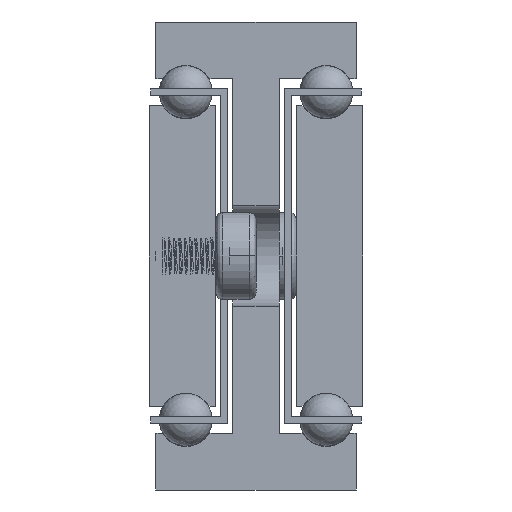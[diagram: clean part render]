
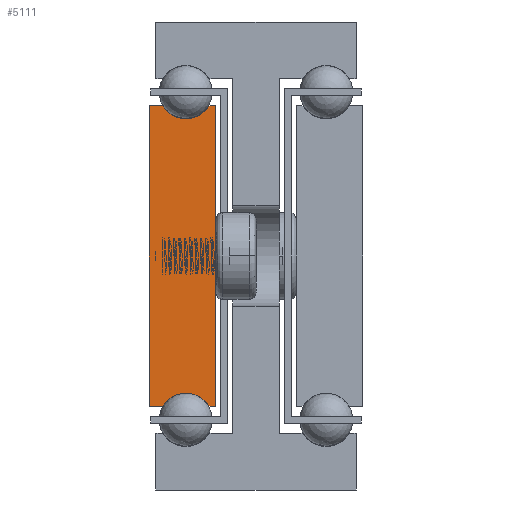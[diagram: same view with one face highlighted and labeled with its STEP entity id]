
A CAD part, front view. The second image highlights one B-rep face of the part: STEP entity #5111.
In plain terms, the highlighted planar face has unit normal (0, -1, 0).
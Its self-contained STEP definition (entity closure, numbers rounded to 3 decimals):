
#381=CIRCLE('',#5488,4.);
#383=CIRCLE('',#5494,4.);
#609=FACE_OUTER_BOUND('',#939,.T.);
#939=EDGE_LOOP('',(#3750,#3751,#3752,#3753,#3754,#3755,#3756,#3757));
#1392=LINE('',#7500,#1892);
#1395=LINE('',#7506,#1895);
#1399=LINE('',#7518,#1899);
#1402=LINE('',#7524,#1902);
#1405=LINE('',#7530,#1905);
#1409=LINE('',#7540,#1909);
#1892=VECTOR('',#6082,1.);
#1895=VECTOR('',#6087,1.);
#1899=VECTOR('',#6099,1.);
#1902=VECTOR('',#6104,1.);
#1905=VECTOR('',#6109,1.);
#1909=VECTOR('',#6121,1.);
#2392=VERTEX_POINT('',#7497);
#2393=VERTEX_POINT('',#7499);
#2395=VERTEX_POINT('',#7505);
#2397=VERTEX_POINT('',#7511);
#2399=VERTEX_POINT('',#7517);
#2401=VERTEX_POINT('',#7523);
#2403=VERTEX_POINT('',#7529);
#2405=VERTEX_POINT('',#7535);
#2938=EDGE_CURVE('',#2393,#2392,#1392,.T.);
#2941=EDGE_CURVE('',#2395,#2393,#1395,.T.);
#2944=EDGE_CURVE('',#2397,#2395,#381,.T.);
#2947=EDGE_CURVE('',#2399,#2397,#1399,.T.);
#2950=EDGE_CURVE('',#2401,#2399,#1402,.T.);
#2953=EDGE_CURVE('',#2403,#2401,#1405,.T.);
#2956=EDGE_CURVE('',#2405,#2403,#383,.T.);
#2959=EDGE_CURVE('',#2392,#2405,#1409,.T.);
#3750=ORIENTED_EDGE('',*,*,#2959,.T.);
#3751=ORIENTED_EDGE('',*,*,#2956,.T.);
#3752=ORIENTED_EDGE('',*,*,#2953,.T.);
#3753=ORIENTED_EDGE('',*,*,#2950,.T.);
#3754=ORIENTED_EDGE('',*,*,#2947,.T.);
#3755=ORIENTED_EDGE('',*,*,#2944,.T.);
#3756=ORIENTED_EDGE('',*,*,#2941,.T.);
#3757=ORIENTED_EDGE('',*,*,#2938,.T.);
#4889=PLANE('',#5497);
#5111=ADVANCED_FACE('',(#609),#4889,.T.);
#5488=AXIS2_PLACEMENT_3D('',#7512,#6093,#6094);
#5494=AXIS2_PLACEMENT_3D('',#7536,#6115,#6116);
#5497=AXIS2_PLACEMENT_3D('',#7542,#6124,#6125);
#6082=DIRECTION('',(0.,0.,-1.));
#6087=DIRECTION('',(-1.,0.,0.));
#6093=DIRECTION('center_axis',(0.,1.,0.));
#6094=DIRECTION('ref_axis',(-0.866,0.,-0.5));
#6099=DIRECTION('',(-1.,0.,0.));
#6104=DIRECTION('',(0.,0.,1.));
#6109=DIRECTION('',(1.,0.,0.));
#6115=DIRECTION('center_axis',(0.,1.,0.));
#6116=DIRECTION('ref_axis',(0.866,0.,0.5));
#6121=DIRECTION('',(1.,0.,0.));
#6124=DIRECTION('center_axis',(0.,-1.,0.));
#6125=DIRECTION('ref_axis',(1.,0.,0.));
#7497=CARTESIAN_POINT('',(-3507.143,1185.234,202.5));
#7499=CARTESIAN_POINT('',(-3507.143,1185.234,247.5));
#7500=CARTESIAN_POINT('',(-3507.143,1185.234,202.5));
#7505=CARTESIAN_POINT('',(-3505.107,1185.234,247.5));
#7506=CARTESIAN_POINT('',(-3507.143,1185.234,247.5));
#7511=CARTESIAN_POINT('',(-3498.179,1185.234,247.5));
#7512=CARTESIAN_POINT('Origin',(-3501.643,1185.234,249.5));
#7517=CARTESIAN_POINT('',(-3497.143,1185.234,247.5));
#7518=CARTESIAN_POINT('',(-3498.179,1185.234,247.5));
#7523=CARTESIAN_POINT('',(-3497.143,1185.234,202.5));
#7524=CARTESIAN_POINT('',(-3497.143,1185.234,247.5));
#7529=CARTESIAN_POINT('',(-3498.179,1185.234,202.5));
#7530=CARTESIAN_POINT('',(-3497.143,1185.234,202.5));
#7535=CARTESIAN_POINT('',(-3505.107,1185.234,202.5));
#7536=CARTESIAN_POINT('Origin',(-3501.643,1185.234,200.5));
#7540=CARTESIAN_POINT('',(-3505.107,1185.234,202.5));
#7542=CARTESIAN_POINT('Origin',(-3502.149,1185.234,225.));
